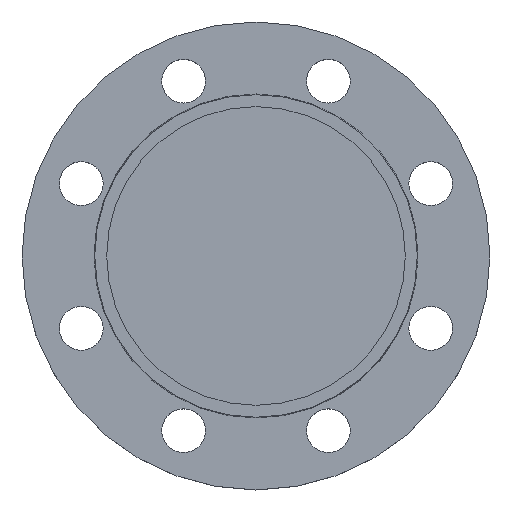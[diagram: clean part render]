
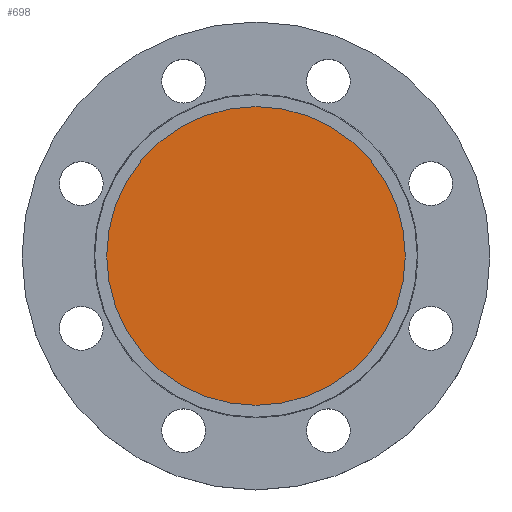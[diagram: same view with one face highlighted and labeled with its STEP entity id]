
A CAD part, top view. The second image highlights one B-rep face of the part: STEP entity #698.
In plain terms, the highlighted planar face has unit normal (0, 0, 1).
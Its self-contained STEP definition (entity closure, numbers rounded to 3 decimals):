
#11 = CIRCLE ( 'NONE', #130, 75. ) ;
#110 = CARTESIAN_POINT ( 'NONE',  ( 75., 0., -4.5 ) ) ;
#130 = AXIS2_PLACEMENT_3D ( 'NONE', #195, #194, #193 ) ;
#155 = DIRECTION ( 'NONE',  ( 1., 0., 0. ) ) ;
#156 = DIRECTION ( 'NONE',  ( 0., 0., 1. ) ) ;
#157 = AXIS2_PLACEMENT_3D ( 'NONE', #158, #156, #155 ) ;
#158 = CARTESIAN_POINT ( 'NONE',  ( 75., 0., -4.5 ) ) ;
#159 = PLANE ( 'NONE',  #157 ) ;
#160 = FACE_OUTER_BOUND ( 'NONE', #827, .T. ) ;
#193 = DIRECTION ( 'NONE',  ( -1., 0., 0. ) ) ;
#194 = DIRECTION ( 'NONE',  ( 0., 0., -1. ) ) ;
#195 = CARTESIAN_POINT ( 'NONE',  ( 0., 0., -4.5 ) ) ;
#236 = DIRECTION ( 'NONE',  ( -1., 0., 0. ) ) ;
#238 = DIRECTION ( 'NONE',  ( 0., 0., -1. ) ) ;
#239 = CARTESIAN_POINT ( 'NONE',  ( 0., 0., -4.5 ) ) ;
#362 = VERTEX_POINT ( 'NONE', #472 ) ;
#472 = CARTESIAN_POINT ( 'NONE',  ( -75., 0., -4.5 ) ) ;
#540 = EDGE_CURVE ( 'NONE', #804, #362, #649, .T. ) ;
#604 = EDGE_CURVE ( 'NONE', #362, #804, #11, .T. ) ;
#649 = CIRCLE ( 'NONE', #880, 75. ) ;
#698 = ADVANCED_FACE ( 'NONE', ( #160 ), #159, .T. ) ;
#712 = ORIENTED_EDGE ( 'NONE', *, *, #604, .F. ) ;
#713 = ORIENTED_EDGE ( 'NONE', *, *, #540, .F. ) ;
#804 = VERTEX_POINT ( 'NONE', #110 ) ;
#827 = EDGE_LOOP ( 'NONE', ( #712, #713 ) ) ;
#880 = AXIS2_PLACEMENT_3D ( 'NONE', #239, #238, #236 ) ;
